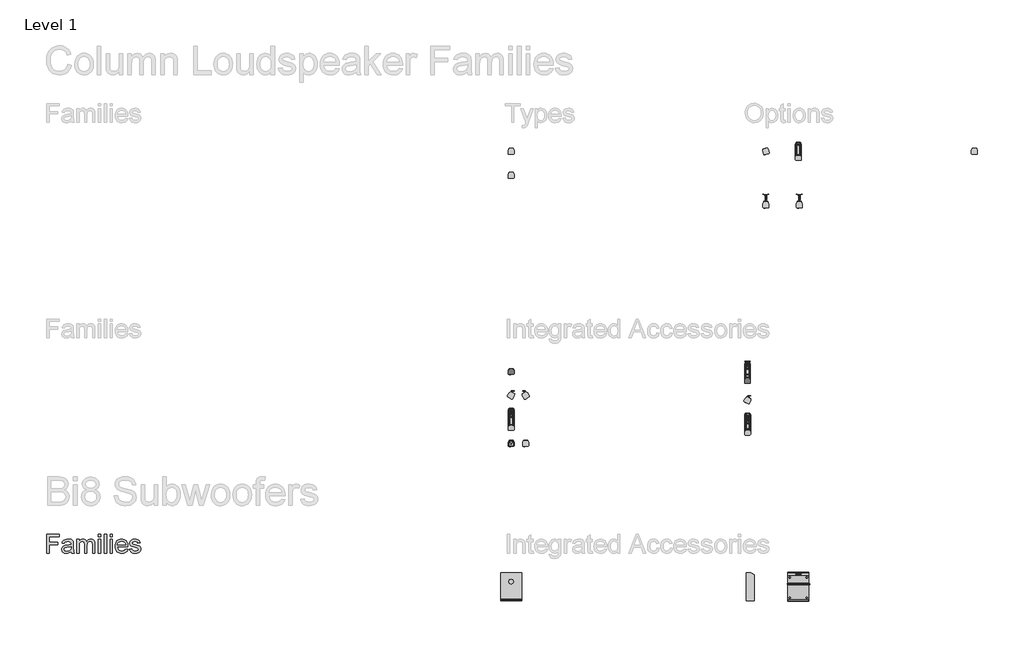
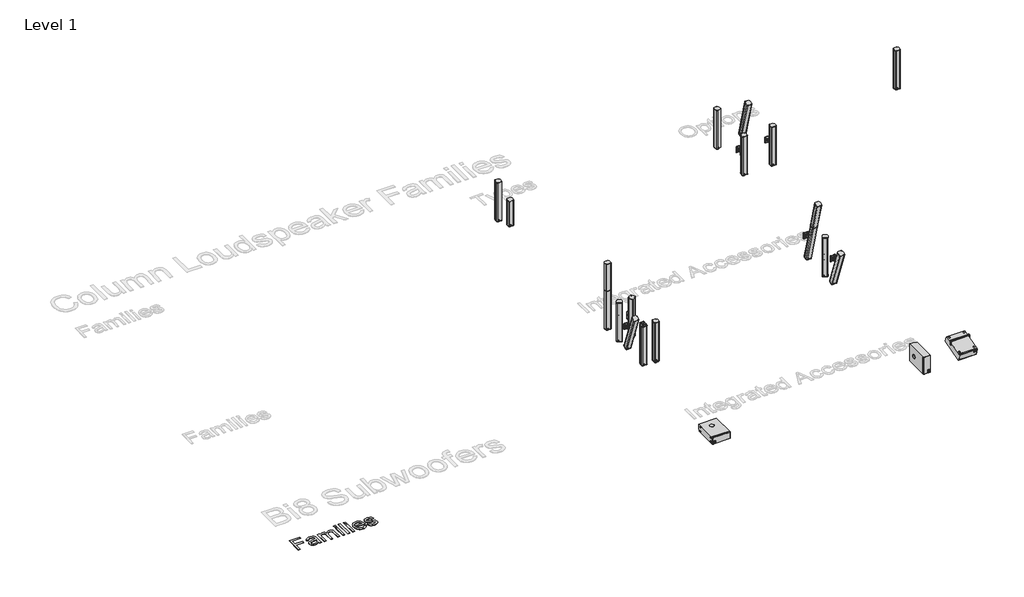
# One storey, part 1 of 8: 33 proxies.
"""IFC4 building model written with IfcOpenShell, lengths in millimetres."""

from ifc_helpers import new_model, si_unit, origin, origin_with_axes, place, context, project, spatial, polyline, outline, extrude, transform, mapped, element, save
from components import communication_devices_21d4f61b, proxy_16c_7316571e, proxy_24c_96e45ba7, proxy_24c_4d4a53e0, proxy_24c_0f04a8cb, proxy_24c_b1119e3b, proxy_24c_47315b2a, proxy_24c_5c7a62c9, proxy_24c_25db1443, proxy_24c_c8f8758b, b8_horizontal_bracket_c61ec636, bi8_sub_5164e3e7, bi8_sub_f5dac4f3, bi8_sub_5dedd92b, mounting_adapter_column_6306ef07, wall_mount_bracket_2680d181, wall_mount_bracket_8d6413a4, wall_mount_column_5208b356, wall_mount_column_0cf47434, wall_mount_column_50282c71

model = new_model("IFC4")

# Units and contexts
model_context = context("Model", 3, world=origin())
ifc_project = project(units=[si_unit("LENGTHUNIT", "METRE", prefix="MILLI")], contexts=[model_context])

# Site, building, storey
site = spatial("IfcSite", under=ifc_project)
building = spatial("IfcBuilding", under=site)
storey = spatial("IfcBuildingStorey", under=building, Name="Level 1", Elevation=0.0)

# Proxies
placement = place(None, origin())
communication_devices_shape = communication_devices_21d4f61b(model_context)
element("IfcBuildingElementProxy", 1, Name="d&b xC-Series 24C-E Column Extension : 24C-E Column Extension", ObjectType="d&b xC-Series 24C-E Column Extension : 24C-E Column Extension", at=placement, inside=storey, context=model_context, shape_type="MappedRepresentation", body=[
    mapped(communication_devices_shape, transform((-11854.4666248, 12146.5012301, 996.5), x_axis=(1.0, 0.0, 0.0), y_axis=(0.0, 1.0, 0.0), z_axis=(0.0, 0.0, 1.0))),
])
element("IfcBuildingElementProxy", 2, Name="d&b xC-Series 24C-E Column Extension : 24C-E Column Extension", ObjectType="d&b xC-Series 24C-E Column Extension : 24C-E Column Extension", at=placement, inside=storey, context=model_context, shape_type="MappedRepresentation", body=[
    mapped(communication_devices_shape, transform((-6916.7166248, 12017.9975742, 979.5821728), x_axis=(1.0, 0.0, 0.0), y_axis=(0.0, 0.9659258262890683, 0.2588190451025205), z_axis=(0.0, -0.2588190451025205, 0.9659258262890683))),
])
proxy_16c_shape = proxy_16c_7316571e(model_context)
element("IfcBuildingElementProxy", 3, Name="d&b xC-Series 16C Column : 16C", ObjectType="d&b xC-Series 16C Column : 16C", at=placement, inside=storey, context=model_context, shape_type="MappedRepresentation", body=[
    mapped(proxy_16c_shape, transform((-11354.4666248, 16246.5012301, 500.0), x_axis=(1.0, 0.0, 0.0), y_axis=(0.0, 1.0, 0.0), z_axis=(0.0, 0.0, 1.0))),
])
proxy_24c_shape = proxy_24c_96e45ba7(model_context)
element("IfcBuildingElementProxy", 4, Name="d&b xC-Series 24C Column : 24C", ObjectType="d&b xC-Series 24C Column : 24C", at=placement, inside=storey, context=model_context, shape_type="MappedRepresentation", body=[
    mapped(proxy_24c_shape, transform((-11354.4666248, 16746.5012301, 500.0), x_axis=(1.0, 0.0, 0.0), y_axis=(0.0, 1.0, 0.0), z_axis=(0.0, 0.0, 1.0))),
])
proxy_24c_2_shape = proxy_24c_4d4a53e0(model_context)
element("IfcBuildingElementProxy", 5, Name="d&b xC-Series 24C Column : 24C", ObjectType="d&b xC-Series 24C Column : 24C", at=placement, inside=storey, context=model_context, shape_type="MappedRepresentation", body=[
    mapped(proxy_24c_2_shape, transform((-6034.4666248, 16746.5012301, 500.0), x_axis=(1.0, 0.0, 0.0), y_axis=(0.0, 1.0, 0.0), z_axis=(0.0, 0.0, 1.0))),
])
proxy_24c_3_shape = proxy_24c_0f04a8cb(model_context)
element("IfcBuildingElementProxy", 6, Name="d&b xC-Series 24C Column : 24C", ObjectType="d&b xC-Series 24C Column : 24C", at=placement, inside=storey, context=model_context, shape_type="MappedRepresentation", body=[
    mapped(proxy_24c_3_shape, transform((-5354.4666248, 16746.5012301, 500.0), x_axis=(1.0, 0.0, 0.0), y_axis=(0.0, 1.0, 0.0), z_axis=(0.0, 0.0, 1.0))),
])
proxy_24c_4_shape = proxy_24c_b1119e3b(model_context)
element("IfcBuildingElementProxy", 7, Name="d&b xC-Series 24C Column : 24C", ObjectType="d&b xC-Series 24C Column : 24C", at=placement, inside=storey, context=model_context, shape_type="MappedRepresentation", body=[
    mapped(proxy_24c_4_shape, transform((-11354.4666248, 12146.5012301, 500.0), x_axis=(1.0, 0.0, 0.0), y_axis=(0.0, 1.0, 0.0), z_axis=(0.0, 0.0, 1.0))),
])
proxy_24c_5_shape = proxy_24c_47315b2a(model_context)
element("IfcBuildingElementProxy", 8, Name="d&b xC-Series 24C Column : 24C", ObjectType="d&b xC-Series 24C Column : 24C", at=placement, inside=storey, context=model_context, shape_type="MappedRepresentation", body=[
    mapped(proxy_24c_5_shape, transform((-11354.4666248, 11646.5012301, 500.0), x_axis=(1.0, 0.0, 0.0), y_axis=(0.0, 1.0, 0.0), z_axis=(0.0, 0.0, 1.0))),
])
element("IfcBuildingElementProxy", 9, Name="d&b xC-Series 24C Column : 24C", ObjectType="d&b xC-Series 24C Column : 24C", at=placement, inside=storey, context=model_context, shape_type="MappedRepresentation", body=[
    mapped(proxy_24c_shape, transform((-1674.4666248, 16746.5012301, 500.0), x_axis=(1.0, 0.0, 0.0), y_axis=(0.0, 1.0, 0.0), z_axis=(0.0, 0.0, 1.0))),
])
proxy_24c_6_shape = proxy_24c_5c7a62c9(model_context)
element("IfcBuildingElementProxy", 10, Name="d&b xC-Series 24C Column : 24C", ObjectType="d&b xC-Series 24C Column : 24C", at=placement, inside=storey, context=model_context, shape_type="MappedRepresentation", body=[
    mapped(proxy_24c_6_shape, transform((-11354.4666248, 11146.5012301, 500.0), x_axis=(1.0, 0.0, 0.0), y_axis=(0.0, 1.0, 0.0), z_axis=(0.0, 0.0, 1.0))),
])
element("IfcBuildingElementProxy", 11, Name="d&b xC-Series 24C Column : 24C", ObjectType="d&b xC-Series 24C Column : 24C", at=placement, inside=storey, context=model_context, shape_type="MappedRepresentation", body=[
    mapped(proxy_24c_6_shape, transform((-6414.4666248, 11046.5012301, 500.0), x_axis=(1.0, 0.0, 0.0), y_axis=(0.0, 1.0, 0.0), z_axis=(0.0, 0.0, 1.0))),
])
element("IfcBuildingElementProxy", 12, Name="d&b xC-Series 24C Column : 24C", ObjectType="d&b xC-Series 24C Column : 24C", at=placement, inside=storey, context=model_context, shape_type="MappedRepresentation", body=[
    mapped(proxy_24c_5_shape, transform((-6414.4666248, 11546.5012301, 500.0), x_axis=(1.0, 0.0, 0.0), y_axis=(0.0, 1.0, 0.0), z_axis=(0.0, 0.0, 1.0))),
])
proxy_24c_7_shape = proxy_24c_25db1443(model_context)
element("IfcBuildingElementProxy", 13, Name="d&b xC-Series 24C Column : 24C", ObjectType="d&b xC-Series 24C Column : 24C", at=placement, inside=storey, context=model_context, shape_type="MappedRepresentation", body=[
    mapped(proxy_24c_7_shape, transform((-6416.7166248, 12146.5012301, 500.0), x_axis=(1.0, 0.0, 0.0), y_axis=(0.0, 1.0, 0.0), z_axis=(0.0, 0.0, 1.0))),
])
element("IfcBuildingElementProxy", 14, Name="d&b xC-Series 24C Column : 24C", ObjectType="d&b xC-Series 24C Column : 24C", at=placement, inside=storey, context=model_context, shape_type="MappedRepresentation", body=[
    mapped(proxy_24c_shape, transform((-11354.4666248, 10641.5216231, 500.0), x_axis=(1.0, 0.0, 0.0), y_axis=(0.0, 1.0, 0.0), z_axis=(0.0, 0.0, 1.0))),
])
proxy_24c_8_shape = proxy_24c_c8f8758b(model_context)
element("IfcBuildingElementProxy", 15, Name="d&b xC-Series 24C Column : 24C", ObjectType="d&b xC-Series 24C Column : 24C", at=placement, inside=storey, context=model_context, shape_type="MappedRepresentation", body=[
    mapped(proxy_24c_8_shape, transform((-11054.4666248, 11646.5012301, 500.0), x_axis=(1.0, 0.0, 0.0), y_axis=(0.0, 1.0, 0.0), z_axis=(0.0, 0.0, 1.0))),
])
element("IfcBuildingElementProxy", 16, Name="d&b xC-Series 24C Column : 24C", ObjectType="d&b xC-Series 24C Column : 24C", at=placement, inside=storey, context=model_context, shape_type="MappedRepresentation", body=[
    mapped(proxy_24c_shape, transform((-11054.4666248, 10641.5216231, 500.0), x_axis=(1.0, 0.0, 0.0), y_axis=(0.0, 1.0, 0.0), z_axis=(0.0, 0.0, 1.0))),
])
element("IfcBuildingElementProxy", 17, Name="d&b xC-Series 24C Column : 24C", ObjectType="d&b xC-Series 24C Column : 24C", at=placement, inside=storey, context=model_context, shape_type="MappedRepresentation", body=[
    mapped(proxy_24c_shape, transform((-6034.4666248, 15626.5012301, 500.0), x_axis=(1.0, 0.0, 0.0), y_axis=(0.0, 1.0, 0.0), z_axis=(0.0, 0.0, 1.0))),
])
element("IfcBuildingElementProxy", 18, Name="d&b xC-Series 24C Column : 24C", ObjectType="d&b xC-Series 24C Column : 24C", at=placement, inside=storey, context=model_context, shape_type="MappedRepresentation", body=[
    mapped(proxy_24c_shape, transform((-5334.4666248, 15626.5012301, 500.0), x_axis=(1.0, 0.0, 0.0), y_axis=(0.0, 1.0, 0.0), z_axis=(0.0, 0.0, 1.0))),
])
element("IfcBuildingElementProxy", 19, Name="400mm Arial", ObjectType="400mm Arial", at=placement, inside=storey, context=model_context, shape_type="SweptSolid", body=[
    extrude(outline(polyline([(-21056.720891, 8351.3054836), (-21056.720891, 8743.0630593), (-20793.5087698, 8743.0630593), (-20793.5087698, 8694.0933624), (-21007.7511941, 8694.0933624), (-21007.7511941, 8577.7903321), (-20824.1148304, 8577.7903321), (-20824.1148304, 8528.8206351), (-21007.7511941, 8528.8206351), (-21007.7511941, 8351.3054836), (-21056.720891, 8351.3054836)])), origin_with_axes(), (0.0, 0.0, 1.0), 5.0),
    extrude(outline(polyline([(-20548.660285, 8388.0327563), (-20572.0571836, 8367.97144), (-20596.1475009, 8354.8443093), (-20621.4811893, 8347.5992809), (-20648.6082016, 8345.1842715), (-20670.4120309, 8346.6368638), (-20689.5318522, 8350.9946408), (-20705.9676654, 8358.2576024), (-20719.7194706, 8368.4257487), (-20730.5780466, 8380.8534831), (-20738.3341723, 8394.895209), (-20742.9878477, 8410.5509263), (-20744.5390729, 8427.8206351), (-20742.1957963, 8448.1210612), (-20735.1659668, 8466.5564305), (-20724.3223352, 8482.3376805), (-20710.5376524, 8494.6757487), (-20676.2493001, 8510.7439305), (-20633.879035, 8518.1085139), (-20583.8094327, 8525.855673), (-20548.9472168, 8534.9418472), (-20548.660285, 8545.8452563), (-20552.0317338, 8567.6998965), (-20562.1460804, 8581.9986654), (-20584.7658721, 8592.6151427), (-20616.2805501, 8596.1539684), (-20645.4519516, 8593.7987364), (-20665.8241107, 8586.7330404), (-20679.7163929, 8573.6656872), (-20689.4481638, 8553.3054836), (-20738.4178607, 8559.4266957), (-20729.9175056, 8586.2069987), (-20717.2327282, 8607.2486654), (-20699.1799346, 8623.3407582), (-20674.5755312, 8635.2723396), (-20644.4835568, 8642.660834), (-20609.9680501, 8645.1236654), (-20576.8632916, 8642.9477658), (-20550.6209857, 8636.4200669), (-20530.8346458, 8626.6046076), (-20517.097785, 8614.5654268), (-20507.9876997, 8599.6808387), (-20502.0816865, 8581.3291578), (-20499.690588, 8538.480673), (-20499.690588, 8477.5554836), (-20497.2038456, 8392.4801995), (-20487.4481638, 8351.3054836), (-20536.4178607, 8351.3054836), (-20544.2606638, 8368.3301048), (-20548.660285, 8388.0327563)]), holes=[polyline([(-20548.660285, 8485.9721502), (-20581.5618001, 8477.8185044), (-20627.6621789, 8470.9560518), (-20669.7933342, 8463.0176048), (-20680.7565208, 8457.5898112), (-20688.8743001, 8450.105673), (-20693.8956069, 8441.1390536), (-20695.5693759, 8431.2638169), (-20691.9229507, 8416.7020271), (-20680.9836751, 8404.7704457), (-20662.990659, 8396.8080877), (-20638.1830122, 8394.1539684), (-20611.8809289, 8397.0830641), (-20588.6394516, 8405.870351), (-20569.7975956, 8418.8181493), (-20556.6943759, 8434.228779), (-20550.8840066, 8450.105673), (-20548.9472168, 8472.103779), (-20548.660285, 8485.9721502)])]), origin_with_axes(), (0.0, 0.0, 1.0), 5.0),
    extrude(outline(polyline([(-20432.3572547, 8351.3054836), (-20432.3572547, 8639.0024533), (-20383.3875577, 8639.0024533), (-20383.3875577, 8591.6587033), (-20368.658391, 8613.405744), (-20349.720891, 8630.4423207), (-20327.2206543, 8641.4533292), (-20301.8032774, 8645.1236654), (-20274.5686657, 8641.3815963), (-20252.7379365, 8630.1553889), (-20236.4306448, 8612.1862838), (-20225.7663456, 8588.2155215), (-20207.9167954, 8613.1128344), (-20187.5565918, 8630.8966294), (-20164.6857348, 8641.5669064), (-20139.3042244, 8645.1236654), (-20119.7002057, 8643.6441732), (-20102.4932632, 8639.2056966), (-20087.683397, 8631.8082357), (-20075.2706069, 8621.4517904), (-20065.4581365, 8608.0168058), (-20058.4492291, 8591.3837269), (-20054.2438846, 8571.5525539), (-20052.8421032, 8548.5232866), (-20052.8421032, 8351.3054836), (-20101.8118001, 8351.3054836), (-20101.8118001, 8527.4816199), (-20106.3548872, 8568.369404), (-20112.7391202, 8579.6434334), (-20122.8056448, 8588.5024533), (-20135.7534431, 8594.2410896), (-20150.7814971, 8596.1539684), (-20177.3107348, 8591.2522165), (-20198.9382206, 8576.5469608), (-20207.3279874, 8565.2669537), (-20213.320678, 8551.03394), (-20218.1148304, 8513.7088927), (-20218.1148304, 8351.3054836), (-20267.0845274, 8351.3054836), (-20267.0845274, 8532.9333245), (-20269.9179791, 8560.6222449), (-20278.4183342, 8580.3727184), (-20293.3746552, 8592.2086559), (-20315.5760047, 8596.1539684), (-20334.4417717, 8593.5237601), (-20351.8250577, 8585.6331351), (-20366.1716486, 8572.6733813), (-20375.9273304, 8554.8357866), (-20381.5225009, 8530.0879173), (-20383.3875577, 8496.3973396), (-20383.3875577, 8351.3054836), (-20432.3572547, 8351.3054836)])), origin_with_axes(), (0.0, 0.0, 1.0), 5.0),
    extrude(outline(polyline([(-19979.3875577, 8351.3054836), (-19979.3875577, 8639.0024533), (-19930.4178607, 8639.0024533), (-19930.4178607, 8351.3054836), (-19979.3875577, 8351.3054836)])), origin_with_axes(), (0.0, 0.0, 1.0), 5.0),
    extrude(outline(polyline([(-19979.3875577, 8694.0933624), (-19979.3875577, 8743.0630593), (-19930.4178607, 8743.0630593), (-19930.4178607, 8694.0933624), (-19979.3875577, 8694.0933624)])), origin_with_axes(), (0.0, 0.0, 1.0), 5.0),
    extrude(outline(polyline([(-19856.9633153, 8351.3054836), (-19856.9633153, 8743.0630593), (-19807.9936183, 8743.0630593), (-19807.9936183, 8351.3054836), (-19856.9633153, 8351.3054836)])), origin_with_axes(), (0.0, 0.0, 1.0), 5.0),
    extrude(outline(polyline([(-19734.5390729, 8351.3054836), (-19734.5390729, 8639.0024533), (-19685.5693759, 8639.0024533), (-19685.5693759, 8351.3054836), (-19734.5390729, 8351.3054836)])), origin_with_axes(), (0.0, 0.0, 1.0), 5.0),
    extrude(outline(polyline([(-19734.5390729, 8694.0933624), (-19734.5390729, 8743.0630593), (-19685.5693759, 8743.0630593), (-19685.5693759, 8694.0933624), (-19734.5390729, 8694.0933624)])), origin_with_axes(), (0.0, 0.0, 1.0), 5.0),
    extrude(outline(polyline([(-19410.6886941, 8437.0024533), (-19362.6754365, 8430.8812411), (-19370.0370309, 8411.6508316), (-19379.975034, 8394.7039211), (-19392.4894457, 8380.0405096), (-19407.580266, 8367.6605972), (-19425.0920736, 8357.8272047), (-19444.8694469, 8350.8033529), (-19491.220891, 8345.1842715), (-19521.605775, 8347.6082475), (-19548.6789876, 8354.8801758), (-19572.4405288, 8367.0000563), (-19592.8903986, 8383.9678889), (-19609.3351784, 8405.3114317), (-19621.0814497, 8430.5584429), (-19628.1292125, 8459.7089223), (-19630.4784668, 8492.7628699), (-19628.1053015, 8526.937645), (-19620.9858058, 8557.0595082), (-19609.1199796, 8583.1284594), (-19592.5078229, 8605.1444987), (-19572.1117528, 8622.6353841), (-19548.8941865, 8635.1288737), (-19522.855124, 8642.6249675), (-19493.9945653, 8645.1236654), (-19466.0635461, 8642.6309452), (-19440.8045795, 8635.1527847), (-19418.2176654, 8622.6891839), (-19398.3028039, 8605.2401427), (-19382.0463231, 8583.2719253), (-19370.4345511, 8557.2507961), (-19363.4674879, 8527.1767549), (-19361.1451335, 8493.0498018), (-19361.4320653, 8479.8509381), (-19581.5087698, 8479.8509381), (-19578.6723292, 8460.3096858), (-19573.0323257, 8443.1953983), (-19564.5887592, 8428.5080759), (-19553.3416297, 8416.2477184), (-19524.9234242, 8399.6774059), (-19490.2644516, 8394.1539684), (-19464.2014782, 8396.7124438), (-19442.2511941, 8404.3878699), (-19424.4135994, 8417.6584665), (-19410.6886941, 8437.0024533)]), holes=[polyline([(-19581.5087698, 8528.8206351), (-19410.1148304, 8528.8206351), (-19416.7381732, 8554.6923207), (-19429.721838, 8573.199423), (-19443.076123, 8583.2420366), (-19458.2715539, 8590.4153321), (-19494.1858532, 8596.1539684), (-19527.1949677, 8591.5750148), (-19554.4893569, 8577.838154), (-19573.4627234, 8556.4258671), (-19581.5087698, 8528.8206351)])]), origin_with_axes(), (0.0, 0.0, 1.0), 5.0),
    extrude(outline(polyline([(-19330.5390729, 8437.0024533), (-19281.5693759, 8443.1236654), (-19273.8461278, 8422.1776427), (-19258.9017622, 8406.7789684), (-19236.6406354, 8397.3102184), (-19206.9671032, 8394.1539684), (-19177.6522357, 8397.0471976), (-19157.0409668, 8405.7268851), (-19144.8463645, 8418.3040631), (-19140.7814971, 8432.8897639), (-19144.8702755, 8445.371298), (-19157.1366107, 8454.8878699), (-19207.5409668, 8468.8518851), (-19281.2824441, 8492.8106919), (-19299.9449677, 8504.8498728), (-19313.4666297, 8520.7865442), (-19321.680053, 8539.6044893), (-19324.4178607, 8560.2874911), (-19322.2180501, 8579.2608576), (-19315.6186183, 8596.775654), (-19305.2173399, 8612.1384618), (-19291.6119895, 8624.6558624), (-19260.4798872, 8639.1459192), (-19218.3487319, 8645.1236654), (-19186.4753891, 8642.7206114), (-19158.7625577, 8635.5114495), (-19136.4775198, 8624.2015536), (-19120.8875577, 8609.496298), (-19110.5580122, 8590.3077326), (-19104.0542244, 8565.5479078), (-19153.0239213, 8559.4266957), (-19159.2049109, 8574.8373254), (-19171.4353797, 8586.4461086), (-19189.8348825, 8593.7270035), (-19214.5229744, 8596.1539684), (-19242.6422925, 8593.8346029), (-19261.3885047, 8586.8765063), (-19271.933249, 8576.8338927), (-19275.4481638, 8565.260976), (-19269.6138835, 8551.010029), (-19251.345891, 8540.2022639), (-19209.1669138, 8529.7770745), (-19137.2904933, 8506.7268851), (-19118.3051713, 8495.7039211), (-19103.9107585, 8480.6160896), (-19094.8365397, 8461.4155688), (-19091.8118001, 8438.0545366), (-19095.3625814, 8413.9044419), (-19106.0149251, 8391.1890063), (-19123.3623446, 8371.6895982), (-19146.9983532, 8357.1875858), (-19175.5480691, 8348.1851), (-19207.6366107, 8345.1842715), (-19233.9924938, 8346.630886), (-19257.0127944, 8350.9707298), (-19276.6975127, 8358.2038027), (-19293.0466486, 8368.3301048), (-19306.4009336, 8381.3018141), (-19317.1010994, 8397.0711086), (-19325.1471458, 8415.6379883), (-19330.5390729, 8437.0024533)])), origin_with_axes(), (0.0, 0.0, 1.0), 5.0),
])
b8_horizontal_bracket_shape = b8_horizontal_bracket_c61ec636(model_context)
element("IfcBuildingElementProxy", 20, Name="d&b B8 Horizontal Bracket : B8 Horizontal Bracket", ObjectType="d&b B8 Horizontal Bracket : B8 Horizontal Bracket", at=placement, inside=storey, context=model_context, shape_type="MappedRepresentation", body=[
    mapped(b8_horizontal_bracket_shape, transform((-5354.4666248, 7646.5012301, 200.0), x_axis=(1.0, 0.0, 0.0), y_axis=(0.0, 1.0, 0.0), z_axis=(0.0, 0.0, 1.0))),
])
bi8_sub_shape = bi8_sub_5164e3e7(model_context)
element("IfcBuildingElementProxy", 21, Name="d&b Bi8 Subwoofer : Bi8 Sub", ObjectType="d&b Bi8 Subwoofer : Bi8 Sub", at=placement, inside=storey, context=model_context, shape_type="MappedRepresentation", body=[
    mapped(bi8_sub_shape, transform((-11354.4666248, 7646.5012301, 82.25), x_axis=(1.0, 0.0, 0.0), y_axis=(0.0, 1.0, 0.0), z_axis=(0.0, 0.0, 1.0))),
])
bi8_sub_2_shape = bi8_sub_f5dac4f3(model_context)
element("IfcBuildingElementProxy", 22, Name="d&b Bi8 Subwoofer : Bi8 Sub", ObjectType="d&b Bi8 Subwoofer : Bi8 Sub", at=placement, inside=storey, context=model_context, shape_type="MappedRepresentation", body=[
    mapped(bi8_sub_2_shape, transform((-6354.4666248, 7646.5012301, 218.0), x_axis=(1.0, 0.0, 0.0), y_axis=(0.0, 1.0, 0.0), z_axis=(0.0, 0.0, 1.0))),
])
bi8_sub_3_shape = bi8_sub_5dedd92b(model_context)
element("IfcBuildingElementProxy", 23, Name="d&b Bi8 Subwoofer : Bi8 Sub", ObjectType="d&b Bi8 Subwoofer : Bi8 Sub", at=placement, inside=storey, context=model_context, shape_type="MappedRepresentation", body=[
    mapped(bi8_sub_3_shape, transform((-5354.4666248, 7646.5012301, 200.0), x_axis=(1.0, 0.0, 0.0), y_axis=(0.0, 1.0, 0.0), z_axis=(0.0, 0.0, 1.0))),
])
mounting_adapter_column_shape = mounting_adapter_column_6306ef07(model_context)
element("IfcBuildingElementProxy", 24, Name="d&b xC-Series Mounting Adapter Column : Mounting Adapter Column", ObjectType="d&b xC-Series Mounting Adapter Column : Mounting Adapter Column", at=placement, inside=storey, context=model_context, shape_type="MappedRepresentation", body=[
    mapped(mounting_adapter_column_shape, transform((-11354.4666248, 10650.0216231, 970.0), x_axis=(1.0, 0.0, 0.0), y_axis=(0.0, 1.0, 0.0), z_axis=(0.0, 0.0, 1.0))),
])
element("IfcBuildingElementProxy", 25, Name="d&b xC-Series Mounting Adapter Column : Mounting Adapter Column", ObjectType="d&b xC-Series Mounting Adapter Column : Mounting Adapter Column", at=placement, inside=storey, context=model_context, shape_type="MappedRepresentation", body=[
    mapped(mounting_adapter_column_shape, transform((-11054.6646286, 10650.0216231, 30.0), x_axis=(-1.0, 0.0, 0.0), y_axis=(0.0, 1.0, 0.0), z_axis=(0.0, 0.0, -1.0))),
])
wall_mount_bracket_shape = wall_mount_bracket_2680d181(model_context)
element("IfcBuildingElementProxy", 26, Name="d&b xC-Series Wall Mount Bracket : Wall Mount Bracket", ObjectType="d&b xC-Series Wall Mount Bracket : Wall Mount Bracket", at=placement, inside=storey, context=model_context, shape_type="MappedRepresentation", body=[
    mapped(wall_mount_bracket_shape, transform((-11340.7172695, 11726.320277, 500.0), x_axis=(-0.5000000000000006, -0.8660254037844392, 0.0), y_axis=(0.8660254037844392, -0.5000000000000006, 0.0), z_axis=(0.0, 0.0, 1.0))),
])
element("IfcBuildingElementProxy", 27, Name="d&b xC-Series Wall Mount Bracket : Wall Mount Bracket", ObjectType="d&b xC-Series Wall Mount Bracket : Wall Mount Bracket", at=placement, inside=storey, context=model_context, shape_type="MappedRepresentation", body=[
    mapped(wall_mount_bracket_shape, transform((-6400.7172695, 11626.320277, 400.0), x_axis=(-0.5000000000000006, -0.8660254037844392, 0.0), y_axis=(0.8660254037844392, -0.5000000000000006, 0.0), z_axis=(0.0, 0.0, 1.0))),
])
wall_mount_bracket_2_shape = wall_mount_bracket_8d6413a4(model_context)
element("IfcBuildingElementProxy", 28, Name="d&b xC-Series Wall Mount Bracket : Wall Mount Bracket", ObjectType="d&b xC-Series Wall Mount Bracket : Wall Mount Bracket", at=placement, inside=storey, context=model_context, shape_type="MappedRepresentation", body=[
    mapped(wall_mount_bracket_2_shape, transform((-11068.21598, 11726.320277, 500.0), x_axis=(0.5000000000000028, -0.8660254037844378, 0.0), y_axis=(0.8660254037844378, 0.5000000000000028, 0.0), z_axis=(0.0, 0.0, 1.0))),
])
wall_mount_column_shape = wall_mount_column_5208b356(model_context)
element("IfcBuildingElementProxy", 29, Name="d&b xC-Series Wall Mount Column : Wall Mount Column", ObjectType="d&b xC-Series Wall Mount Column : Wall Mount Column", at=placement, inside=storey, context=model_context, shape_type="MappedRepresentation", body=[
    mapped(wall_mount_column_shape, transform((-11354.4666248, 11251.7468036, 538.3062561), x_axis=(0.0, -0.9396926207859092, -0.3420201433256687), y_axis=(1.0000000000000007, 0.0, 0.0), z_axis=(0.0, -0.3420201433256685, 0.9396926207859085))),
])
element("IfcBuildingElementProxy", 30, Name="d&b xC-Series Wall Mount Column : Wall Mount Column", ObjectType="d&b xC-Series Wall Mount Column : Wall Mount Column", at=placement, inside=storey, context=model_context, shape_type="MappedRepresentation", body=[
    mapped(wall_mount_column_shape, transform((-6414.4666248, 11117.5447893, 632.2755181), x_axis=(0.0, -0.9396926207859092, -0.3420201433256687), y_axis=(1.0000000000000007, 0.0, 0.0), z_axis=(0.0, -0.3420201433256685, 0.9396926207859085))),
])
wall_mount_column_2_shape = wall_mount_column_0cf47434(model_context)
element("IfcBuildingElementProxy", 31, Name="d&b xC-Series Wall Mount Column : Wall Mount Column", ObjectType="d&b xC-Series Wall Mount Column : Wall Mount Column", at=placement, inside=storey, context=model_context, shape_type="MappedRepresentation", body=[
    mapped(wall_mount_column_2_shape, transform((-6416.7166248, 12254.6849226, 528.9877331), x_axis=(0.0, -0.965925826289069, -0.2588190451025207), y_axis=(1.0000000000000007, 0.0, 0.0), z_axis=(0.0, -0.2588190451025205, 0.9659258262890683))),
])
wall_mount_column_3_shape = wall_mount_column_50282c71(model_context)
element("IfcBuildingElementProxy", 32, Name="d&b xC-Series Wall Mount Column : Wall Mount Column", ObjectType="d&b xC-Series Wall Mount Column : Wall Mount Column", at=placement, inside=storey, context=model_context, shape_type="MappedRepresentation", body=[
    mapped(wall_mount_column_3_shape, transform((-6034.4666248, 15738.5012301, 500.0), x_axis=(0.0, -1.0000000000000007, 0.0), y_axis=(1.0000000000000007, 0.0, 0.0), z_axis=(0.0, 0.0, 1.0))),
])
element("IfcBuildingElementProxy", 33, Name="d&b xC-Series Wall Mount Column : Wall Mount Column", ObjectType="d&b xC-Series Wall Mount Column : Wall Mount Column", at=placement, inside=storey, context=model_context, shape_type="MappedRepresentation", body=[
    mapped(wall_mount_column_3_shape, transform((-5334.4666248, 15738.5012301, 500.0), x_axis=(0.0, -1.0000000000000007, 0.0), y_axis=(1.0000000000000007, 0.0, 0.0), z_axis=(0.0, 0.0, 1.0))),
])

save(model, "model.ifc")
